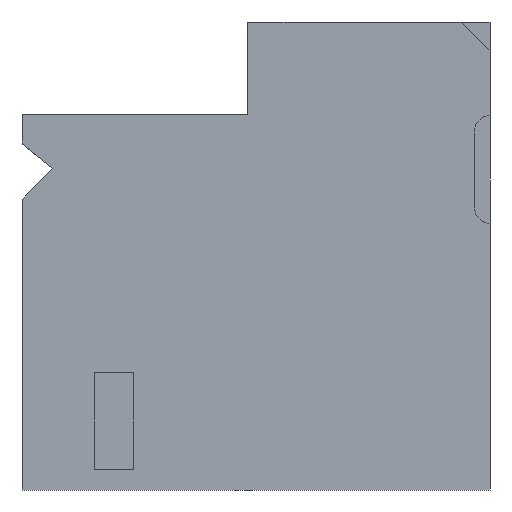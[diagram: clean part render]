
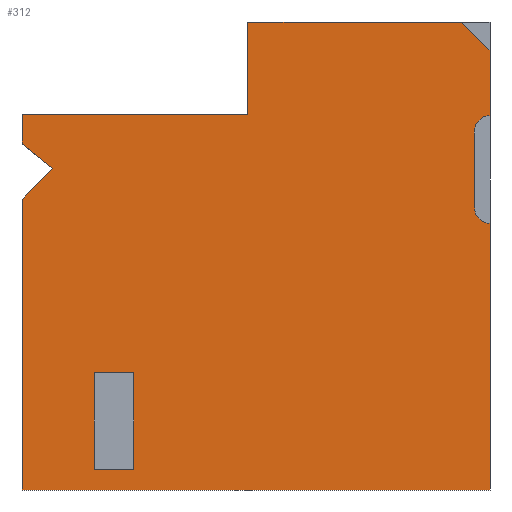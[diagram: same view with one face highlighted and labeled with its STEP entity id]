
A CAD part, front view. The second image highlights one B-rep face of the part: STEP entity #312.
In plain terms, the highlighted planar face has unit normal (0, -1, 0).
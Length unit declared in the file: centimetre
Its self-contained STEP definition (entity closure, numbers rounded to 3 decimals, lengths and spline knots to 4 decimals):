
#7 = CARTESIAN_POINT ( 'NONE',  ( 0., 0., 1000. ) ) ;
#40 = VECTOR ( 'NONE', #746, 100. ) ;
#45 = CARTESIAN_POINT ( 'NONE',  ( 1000., 0., 767.1337 ) ) ;
#57 = DIRECTION ( 'NONE',  ( 0., -1., 0. ) ) ;
#82 = VERTEX_POINT ( 'NONE', #474 ) ;
#89 = VECTOR ( 'NONE', #124, 100. ) ;
#100 = DIRECTION ( 'NONE',  ( 0., 0., 1. ) ) ;
#103 = CARTESIAN_POINT ( 'NONE',  ( 153.8542, 0., 43.8816 ) ) ;
#110 = DIRECTION ( 'NONE',  ( -1., 0., 0. ) ) ;
#112 = ORIENTED_EDGE ( 'NONE', *, *, #690, .F. ) ;
#121 = AXIS2_PLACEMENT_3D ( 'NONE', #882, #283, #677 ) ;
#124 = DIRECTION ( 'NONE',  ( 0., 0., -1. ) ) ;
#130 = VERTEX_POINT ( 'NONE', #740 ) ;
#131 = LINE ( 'NONE', #383, #89 ) ;
#132 = EDGE_CURVE ( 'NONE', #895, #278, #346, .T. ) ;
#136 = CARTESIAN_POINT ( 'NONE',  ( 0., 0., 1000. ) ) ;
#137 = VERTEX_POINT ( 'NONE', #175 ) ;
#140 = VECTOR ( 'NONE', #110, 100. ) ;
#141 = ORIENTED_EDGE ( 'NONE', *, *, #866, .F. ) ;
#145 = VERTEX_POINT ( 'NONE', #427 ) ;
#146 = LINE ( 'NONE', #525, #681 ) ;
#158 = VECTOR ( 'NONE', #1018, 100. ) ;
#171 = CARTESIAN_POINT ( 'NONE',  ( 966.8283, 0., 602.8879 ) ) ;
#175 = CARTESIAN_POINT ( 'NONE',  ( 238.4049, 0., 250.9516 ) ) ;
#180 = CARTESIAN_POINT ( 'NONE',  ( 966.8283, 0., 767.1337 ) ) ;
#183 = ORIENTED_EDGE ( 'NONE', *, *, #449, .F. ) ;
#201 = CARTESIAN_POINT ( 'NONE',  ( 153.8542, 0., 43.8816 ) ) ;
#216 = EDGE_CURVE ( 'NONE', #500, #654, #581, .T. ) ;
#221 = EDGE_CURVE ( 'NONE', #145, #457, #816, .T. ) ;
#243 = CARTESIAN_POINT ( 'NONE',  ( 0., 0., 621.7173 ) ) ;
#253 = CIRCLE ( 'NONE', #338, 33.1717 ) ;
#256 = LINE ( 'NONE', #334, #636 ) ;
#275 = VERTEX_POINT ( 'NONE', #180 ) ;
#278 = VERTEX_POINT ( 'NONE', #415 ) ;
#283 = DIRECTION ( 'NONE',  ( 0., -1., 0. ) ) ;
#285 = CARTESIAN_POINT ( 'NONE',  ( 238.4049, 0., 43.8816 ) ) ;
#304 = VECTOR ( 'NONE', #314, 100. ) ;
#307 = EDGE_CURVE ( 'NONE', #434, #979, #839, .T. ) ;
#308 = VECTOR ( 'NONE', #469, 100. ) ;
#312 = ADVANCED_FACE ( 'NONE', ( #891, #485 ), #718, .F. ) ;
#314 = DIRECTION ( 'NONE',  ( 0., 0., -1. ) ) ;
#320 = VECTOR ( 'NONE', #787, 100. ) ;
#330 = LINE ( 'NONE', #903, #658 ) ;
#331 = LINE ( 'NONE', #171, #304 ) ;
#334 = CARTESIAN_POINT ( 'NONE',  ( 1000., 0., 939.605 ) ) ;
#338 = AXIS2_PLACEMENT_3D ( 'NONE', #45, #57, #946 ) ;
#346 = LINE ( 'NONE', #906, #697 ) ;
#347 = VERTEX_POINT ( 'NONE', #633 ) ;
#348 = CARTESIAN_POINT ( 'NONE',  ( 0., 0., 803.007 ) ) ;
#373 = ORIENTED_EDGE ( 'NONE', *, *, #1019, .F. ) ;
#375 = AXIS2_PLACEMENT_3D ( 'NONE', #7, #1042, #564 ) ;
#383 = CARTESIAN_POINT ( 'NONE',  ( 0., 0., 1000. ) ) ;
#389 = EDGE_CURVE ( 'NONE', #275, #926, #331, .T. ) ;
#390 = CIRCLE ( 'NONE', #121, 33.1717 ) ;
#404 = VECTOR ( 'NONE', #439, 100. ) ;
#415 = CARTESIAN_POINT ( 'NONE',  ( 1000., 0., 0. ) ) ;
#427 = CARTESIAN_POINT ( 'NONE',  ( 482.5868, 0., 803.007 ) ) ;
#429 = CARTESIAN_POINT ( 'NONE',  ( 153.8542, 0., 43.8816 ) ) ;
#434 = VERTEX_POINT ( 'NONE', #243 ) ;
#439 = DIRECTION ( 'NONE',  ( 0.707, 0., 0.707 ) ) ;
#449 = EDGE_CURVE ( 'NONE', #926, #1011, #390, .T. ) ;
#455 = EDGE_CURVE ( 'NONE', #943, #500, #256, .T. ) ;
#457 = VERTEX_POINT ( 'NONE', #348 ) ;
#458 = DIRECTION ( 'NONE',  ( 0., 0., -1. ) ) ;
#464 = ORIENTED_EDGE ( 'NONE', *, *, #221, .T. ) ;
#468 = LINE ( 'NONE', #201, #158 ) ;
#469 = DIRECTION ( 'NONE',  ( 0., 0., -1. ) ) ;
#474 = CARTESIAN_POINT ( 'NONE',  ( 153.8542, 0., 250.9516 ) ) ;
#483 = LINE ( 'NONE', #951, #308 ) ;
#485 = FACE_OUTER_BOUND ( 'NONE', #523, .T. ) ;
#489 = EDGE_CURVE ( 'NONE', #145, #777, #841, .T. ) ;
#492 = CARTESIAN_POINT ( 'NONE',  ( 482.5868, 0., 803.007 ) ) ;
#500 = VERTEX_POINT ( 'NONE', #671 ) ;
#518 = ORIENTED_EDGE ( 'NONE', *, *, #216, .F. ) ;
#523 = EDGE_LOOP ( 'NONE', ( #532, #183, #573, #665, #518, #764, #846, #534, #464, #552, #112, #606, #938, #921 ) ) ;
#525 = CARTESIAN_POINT ( 'NONE',  ( 0., 0., 1000. ) ) ;
#528 = VERTEX_POINT ( 'NONE', #429 ) ;
#531 = CARTESIAN_POINT ( 'NONE',  ( 1000., 0., 800.3054 ) ) ;
#532 = ORIENTED_EDGE ( 'NONE', *, *, #893, .F. ) ;
#534 = ORIENTED_EDGE ( 'NONE', *, *, #489, .F. ) ;
#552 = ORIENTED_EDGE ( 'NONE', *, *, #813, .T. ) ;
#556 = ORIENTED_EDGE ( 'NONE', *, *, #988, .F. ) ;
#557 = CARTESIAN_POINT ( 'NONE',  ( 0., 0., 0. ) ) ;
#564 = DIRECTION ( 'NONE',  ( 0., 0., 1. ) ) ;
#573 = ORIENTED_EDGE ( 'NONE', *, *, #389, .F. ) ;
#574 = DIRECTION ( 'NONE',  ( 0., 0., -1. ) ) ;
#581 = LINE ( 'NONE', #753, #649 ) ;
#606 = ORIENTED_EDGE ( 'NONE', *, *, #307, .F. ) ;
#624 = CARTESIAN_POINT ( 'NONE',  ( 64.9581, 0., 686.6754 ) ) ;
#632 = CARTESIAN_POINT ( 'NONE',  ( 939.605, 0., 1000. ) ) ;
#633 = CARTESIAN_POINT ( 'NONE',  ( 0., 0., 739.1878 ) ) ;
#636 = VECTOR ( 'NONE', #763, 100. ) ;
#645 = LINE ( 'NONE', #103, #40 ) ;
#649 = VECTOR ( 'NONE', #574, 100. ) ;
#651 = VECTOR ( 'NONE', #100, 100. ) ;
#654 = VERTEX_POINT ( 'NONE', #531 ) ;
#658 = VECTOR ( 'NONE', #752, 100. ) ;
#660 = CARTESIAN_POINT ( 'NONE',  ( 1000., 0., 569.7162 ) ) ;
#665 = ORIENTED_EDGE ( 'NONE', *, *, #837, .F. ) ;
#671 = CARTESIAN_POINT ( 'NONE',  ( 1000., 0., 939.605 ) ) ;
#677 = DIRECTION ( 'NONE',  ( 0., 0., 1. ) ) ;
#681 = VECTOR ( 'NONE', #852, 100. ) ;
#683 = ORIENTED_EDGE ( 'NONE', *, *, #727, .F. ) ;
#689 = EDGE_LOOP ( 'NONE', ( #373, #683, #556, #141 ) ) ;
#690 = EDGE_CURVE ( 'NONE', #979, #347, #708, .T. ) ;
#697 = VECTOR ( 'NONE', #748, 100. ) ;
#708 = LINE ( 'NONE', #781, #320 ) ;
#718 = PLANE ( 'NONE',  #375 ) ;
#727 = EDGE_CURVE ( 'NONE', #82, #528, #468, .T. ) ;
#740 = CARTESIAN_POINT ( 'NONE',  ( 238.4049, 0., 43.8816 ) ) ;
#745 = VECTOR ( 'NONE', #458, 100. ) ;
#746 = DIRECTION ( 'NONE',  ( 1., 0., 0. ) ) ;
#747 = CARTESIAN_POINT ( 'NONE',  ( 0., 0., 621.7173 ) ) ;
#748 = DIRECTION ( 'NONE',  ( 1., 0., 0. ) ) ;
#752 = DIRECTION ( 'NONE',  ( -1., 0., 0. ) ) ;
#753 = CARTESIAN_POINT ( 'NONE',  ( 1000., 0., 1000. ) ) ;
#763 = DIRECTION ( 'NONE',  ( 0.707, 0., -0.707 ) ) ;
#764 = ORIENTED_EDGE ( 'NONE', *, *, #455, .F. ) ;
#777 = VERTEX_POINT ( 'NONE', #937 ) ;
#781 = CARTESIAN_POINT ( 'NONE',  ( 64.9581, 0., 686.6754 ) ) ;
#787 = DIRECTION ( 'NONE',  ( -0.778, 0., 0.629 ) ) ;
#813 = EDGE_CURVE ( 'NONE', #457, #347, #131, .T. ) ;
#816 = LINE ( 'NONE', #492, #140 ) ;
#817 = EDGE_CURVE ( 'NONE', #434, #895, #925, .T. ) ;
#837 = EDGE_CURVE ( 'NONE', #654, #275, #253, .T. ) ;
#839 = LINE ( 'NONE', #747, #404 ) ;
#841 = LINE ( 'NONE', #997, #651 ) ;
#846 = ORIENTED_EDGE ( 'NONE', *, *, #871, .F. ) ;
#852 = DIRECTION ( 'NONE',  ( 1., 0., 0. ) ) ;
#866 = EDGE_CURVE ( 'NONE', #130, #137, #1006, .T. ) ;
#871 = EDGE_CURVE ( 'NONE', #777, #943, #146, .T. ) ;
#882 = CARTESIAN_POINT ( 'NONE',  ( 1000., 0., 602.8879 ) ) ;
#891 = FACE_BOUND ( 'NONE', #689, .T. ) ;
#893 = EDGE_CURVE ( 'NONE', #1011, #278, #483, .T. ) ;
#895 = VERTEX_POINT ( 'NONE', #557 ) ;
#896 = VECTOR ( 'NONE', #930, 100. ) ;
#903 = CARTESIAN_POINT ( 'NONE',  ( 153.8542, 0., 250.9516 ) ) ;
#906 = CARTESIAN_POINT ( 'NONE',  ( 0., 0., 0. ) ) ;
#921 = ORIENTED_EDGE ( 'NONE', *, *, #132, .T. ) ;
#925 = LINE ( 'NONE', #136, #745 ) ;
#926 = VERTEX_POINT ( 'NONE', #964 ) ;
#930 = DIRECTION ( 'NONE',  ( 0., 0., 1. ) ) ;
#937 = CARTESIAN_POINT ( 'NONE',  ( 482.5868, 0., 1000. ) ) ;
#938 = ORIENTED_EDGE ( 'NONE', *, *, #817, .T. ) ;
#943 = VERTEX_POINT ( 'NONE', #632 ) ;
#946 = DIRECTION ( 'NONE',  ( 0., 0., 1. ) ) ;
#951 = CARTESIAN_POINT ( 'NONE',  ( 1000., 0., 1000. ) ) ;
#964 = CARTESIAN_POINT ( 'NONE',  ( 966.8283, 0., 602.8879 ) ) ;
#979 = VERTEX_POINT ( 'NONE', #624 ) ;
#988 = EDGE_CURVE ( 'NONE', #137, #82, #330, .T. ) ;
#997 = CARTESIAN_POINT ( 'NONE',  ( 482.5868, 0., 803.007 ) ) ;
#1006 = LINE ( 'NONE', #285, #896 ) ;
#1011 = VERTEX_POINT ( 'NONE', #660 ) ;
#1018 = DIRECTION ( 'NONE',  ( 0., 0., -1. ) ) ;
#1019 = EDGE_CURVE ( 'NONE', #528, #130, #645, .T. ) ;
#1042 = DIRECTION ( 'NONE',  ( 0., 1., 0. ) ) ;
